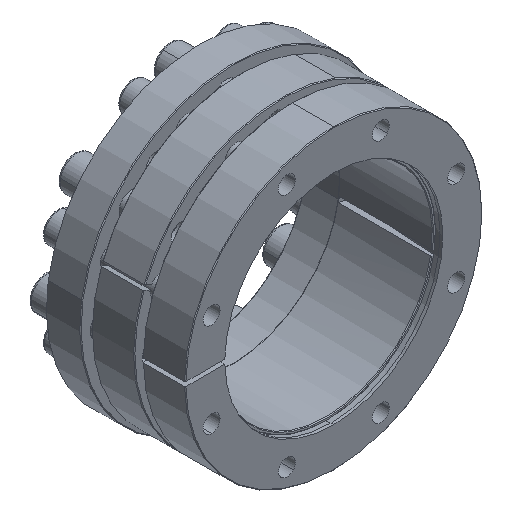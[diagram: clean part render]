
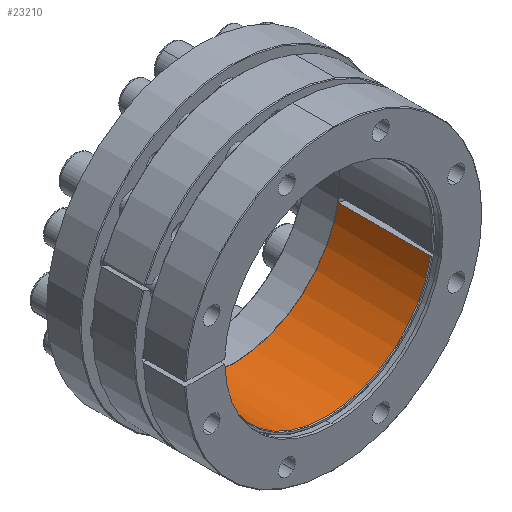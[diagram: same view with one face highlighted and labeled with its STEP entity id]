
A CAD part, isometric view. The second image highlights one B-rep face of the part: STEP entity #23210.
In plain terms, the highlighted cylindrical face has radius 75 mm (diameter 150 mm), a partial arc.
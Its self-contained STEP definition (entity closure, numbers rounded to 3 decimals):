
#252 = ORIENTED_EDGE ( 'NONE', *, *, #1854, .F. ) ;
#704 = DIRECTION ( 'NONE',  ( 0., -1., 0. ) ) ;
#1288 = CARTESIAN_POINT ( 'NONE',  ( 74.077, 5.003, -11.733 ) ) ;
#1462 = CARTESIAN_POINT ( 'NONE',  ( 0., 70.503, 0. ) ) ;
#1854 = EDGE_CURVE ( 'NONE', #19457, #23045, #10034, .T. ) ;
#1950 = VERTEX_POINT ( 'NONE', #22884 ) ;
#2447 = CARTESIAN_POINT ( 'NONE',  ( 0., 5.003, 0. ) ) ;
#2684 = CARTESIAN_POINT ( 'NONE',  ( 0., 70.503, 0. ) ) ;
#2821 = EDGE_CURVE ( 'NONE', #1950, #17841, #12021, .T. ) ;
#2854 = ORIENTED_EDGE ( 'NONE', *, *, #21144, .T. ) ;
#3578 = DIRECTION ( 'NONE',  ( 0.988, 0., -0.156 ) ) ;
#3972 = EDGE_CURVE ( 'NONE', #21478, #20482, #15098, .T. ) ;
#4613 = CARTESIAN_POINT ( 'NONE',  ( -74.077, 71.003, 11.733 ) ) ;
#4796 = DIRECTION ( 'NONE',  ( 0.988, 0., -0.156 ) ) ;
#4804 = CARTESIAN_POINT ( 'NONE',  ( 74.077, 71.003, -11.733 ) ) ;
#5297 = CARTESIAN_POINT ( 'NONE',  ( 73.783, 5.503, -13.458 ) ) ;
#5918 = AXIS2_PLACEMENT_3D ( 'NONE', #1462, #16209, #3578 ) ;
#5945 = CARTESIAN_POINT ( 'NONE',  ( 74.077, 70.503, -11.733 ) ) ;
#6887 = CARTESIAN_POINT ( 'NONE',  ( -74.077, 70.503, 11.733 ) ) ;
#6894 = CARTESIAN_POINT ( 'NONE',  ( 73.783, 70.503, -13.458 ) ) ;
#7102 = CIRCLE ( 'NONE', #5918, 75. ) ;
#7899 = ORIENTED_EDGE ( 'NONE', *, *, #20810, .T. ) ;
#7994 = ORIENTED_EDGE ( 'NONE', *, *, #3972, .T. ) ;
#8380 = CARTESIAN_POINT ( 'NONE',  ( -74.077, 5.003, 11.733 ) ) ;
#8671 = CARTESIAN_POINT ( 'NONE',  ( -74.33, 5.503, 10.001 ) ) ;
#8806 = CARTESIAN_POINT ( 'NONE',  ( 0., 71.003, 0. ) ) ;
#9536 = CARTESIAN_POINT ( 'NONE',  ( 0., 5.503, 0. ) ) ;
#10034 = LINE ( 'NONE', #1288, #19973 ) ;
#10582 = EDGE_CURVE ( 'NONE', #21751, #1950, #7102, .T. ) ;
#10943 = DIRECTION ( 'NONE',  ( -0.988, 0., 0.156 ) ) ;
#11156 = DIRECTION ( 'NONE',  ( 0., 1., 0. ) ) ;
#11657 = DIRECTION ( 'NONE',  ( 0.988, 0., -0.156 ) ) ;
#11894 = DIRECTION ( 'NONE',  ( 0., -1., 0. ) ) ;
#12021 = LINE ( 'NONE', #25961, #23269 ) ;
#13719 = FACE_OUTER_BOUND ( 'NONE', #13806, .T. ) ;
#13806 = EDGE_LOOP ( 'NONE', ( #252, #24090, #2854, #20430, #24965, #16067, #7994, #7899 ) ) ;
#15098 = LINE ( 'NONE', #15391, #20071 ) ;
#15391 = CARTESIAN_POINT ( 'NONE',  ( 73.783, 5.003, -13.458 ) ) ;
#15953 = AXIS2_PLACEMENT_3D ( 'NONE', #2447, #17230, #25689 ) ;
#16067 = ORIENTED_EDGE ( 'NONE', *, *, #22482, .T. ) ;
#16209 = DIRECTION ( 'NONE',  ( 0., -1., 0. ) ) ;
#16245 = VERTEX_POINT ( 'NONE', #4613 ) ;
#16632 = CYLINDRICAL_SURFACE ( 'NONE', #15953, 75. ) ;
#16933 = EDGE_CURVE ( 'NONE', #16245, #19457, #21118, .T. ) ;
#17230 = DIRECTION ( 'NONE',  ( 0., -1., 0. ) ) ;
#17389 = CIRCLE ( 'NONE', #24597, 75. ) ;
#17493 = DIRECTION ( 'NONE',  ( 0., -1., 0. ) ) ;
#17841 = VERTEX_POINT ( 'NONE', #8671 ) ;
#18953 = LINE ( 'NONE', #8380, #23925 ) ;
#19457 = VERTEX_POINT ( 'NONE', #4804 ) ;
#19973 = VECTOR ( 'NONE', #11894, 1000. ) ;
#20071 = VECTOR ( 'NONE', #11156, 1000. ) ;
#20430 = ORIENTED_EDGE ( 'NONE', *, *, #10582, .T. ) ;
#20482 = VERTEX_POINT ( 'NONE', #6894 ) ;
#20610 = AXIS2_PLACEMENT_3D ( 'NONE', #9536, #24279, #11657 ) ;
#20808 = AXIS2_PLACEMENT_3D ( 'NONE', #8806, #23597, #10943 ) ;
#20810 = EDGE_CURVE ( 'NONE', #20482, #23045, #17389, .T. ) ;
#21118 = CIRCLE ( 'NONE', #20808, 75. ) ;
#21144 = EDGE_CURVE ( 'NONE', #16245, #21751, #18953, .T. ) ;
#21478 = VERTEX_POINT ( 'NONE', #5297 ) ;
#21751 = VERTEX_POINT ( 'NONE', #6887 ) ;
#22482 = EDGE_CURVE ( 'NONE', #17841, #21478, #25094, .T. ) ;
#22884 = CARTESIAN_POINT ( 'NONE',  ( -74.33, 70.503, 10.001 ) ) ;
#23045 = VERTEX_POINT ( 'NONE', #5945 ) ;
#23167 = DIRECTION ( 'NONE',  ( 0., -1., 0. ) ) ;
#23210 = ADVANCED_FACE ( 'NONE', ( #13719 ), #16632, .F. ) ;
#23269 = VECTOR ( 'NONE', #704, 1000. ) ;
#23597 = DIRECTION ( 'NONE',  ( 0., -1., 0. ) ) ;
#23925 = VECTOR ( 'NONE', #23167, 1000. ) ;
#24090 = ORIENTED_EDGE ( 'NONE', *, *, #16933, .F. ) ;
#24279 = DIRECTION ( 'NONE',  ( 0., -1., 0. ) ) ;
#24597 = AXIS2_PLACEMENT_3D ( 'NONE', #2684, #17493, #4796 ) ;
#24965 = ORIENTED_EDGE ( 'NONE', *, *, #2821, .T. ) ;
#25094 = CIRCLE ( 'NONE', #20610, 75. ) ;
#25689 = DIRECTION ( 'NONE',  ( -0.988, 0., 0.156 ) ) ;
#25961 = CARTESIAN_POINT ( 'NONE',  ( -74.33, 5.003, 10.001 ) ) ;
